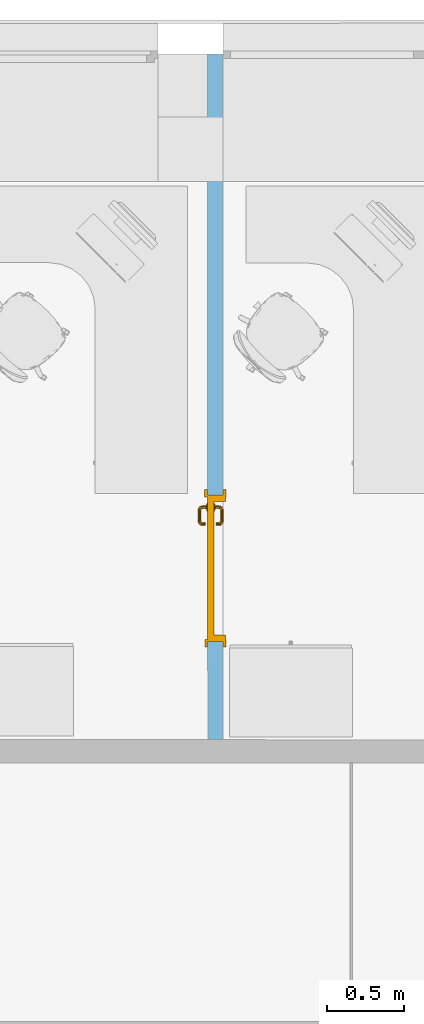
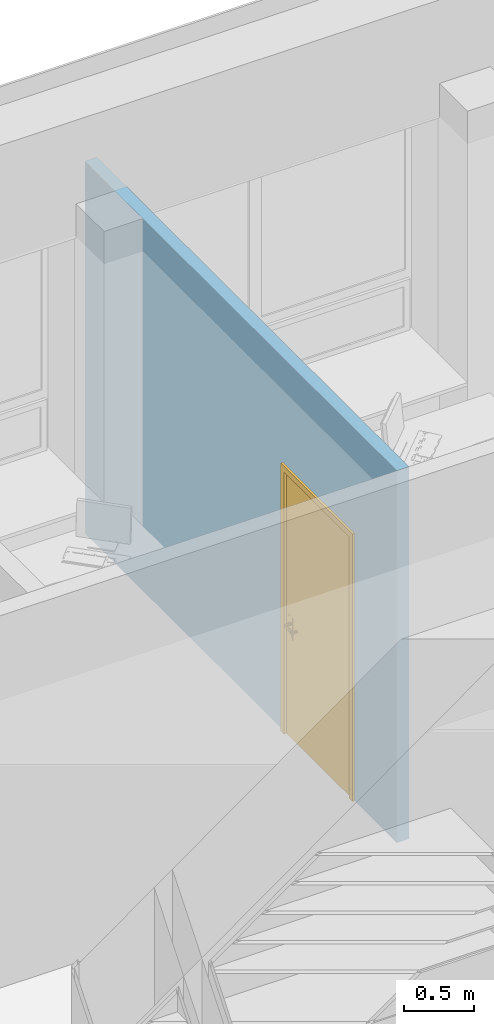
# One storey, part 71 of 194: 1 door, 1 opening, plus 1 element that does not belong to this part.
"""IFC2X3 building model written with IfcOpenShell, lengths in millimetres."""

from ifc_helpers import new_model, entity, si_unit, converted_unit, derived_unit, money_unit, direction, frame, origin_with_axes, origin_2d_with_axis, place, context, subcontext, project, spatial, polyline, rectangle, outline, extrude, open_shell, faceted_brep, surface_model, material, layer, layer_set, layer_usage, type_object, element, fill, save


model = new_model("IFC2X3")

# Units and contexts
model_context = context("Model", 3, precision=1e-05, world=origin_with_axes(), true_north=direction((0.0, 1.0)))
body_context = subcontext(model_context, "Body", "Model", "MODEL_VIEW")
ifc_project = project(units=[si_unit("LENGTHUNIT", "METRE", prefix="MILLI"), si_unit("AREAUNIT", "SQUARE_METRE"), si_unit("VOLUMEUNIT", "CUBIC_METRE"), converted_unit("PLANEANGLEUNIT", "DEGREE", entity("IfcPlaneAngleMeasure", 0.0174532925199), si_unit("PLANEANGLEUNIT", "RADIAN"), dimensions=[0, 0, 0, 0, 0, 0, 0]), si_unit("SOLIDANGLEUNIT", "STERADIAN"), money_unit("EUR"), converted_unit("TIMEUNIT", "Year", entity("IfcTimeMeasure", 31556926.0), si_unit("TIMEUNIT", "SECOND"), dimensions=[0, 0, 1, 0, 0, 0, 0]), si_unit("MASSUNIT", "GRAM", prefix="KILO"), si_unit("THERMODYNAMICTEMPERATUREUNIT", "DEGREE_CELSIUS"), si_unit("LUMINOUSINTENSITYUNIT", "LUMEN"), si_unit("ENERGYUNIT", "JOULE", prefix="MEGA"), derived_unit("THERMALCONDUCTANCEUNIT", [(si_unit("POWERUNIT", "WATT"), 1), (si_unit("LENGTHUNIT", "METRE"), -1), (si_unit("THERMODYNAMICTEMPERATUREUNIT", "KELVIN"), -1)]), derived_unit("SPECIFICHEATCAPACITYUNIT", [(si_unit("ENERGYUNIT", "JOULE"), 1), (si_unit("MASSUNIT", "GRAM", prefix="KILO"), -1), (si_unit("THERMODYNAMICTEMPERATUREUNIT", "KELVIN"), -1)]), derived_unit("MASSDENSITYUNIT", [(si_unit("MASSUNIT", "GRAM", prefix="KILO"), 1), (si_unit("VOLUMEUNIT", "CUBIC_METRE"), -1)])], contexts=[model_context])

# Site, building, storey
site_placement = place(None, origin_with_axes())
site = spatial("IfcSite", under=ifc_project, at=site_placement, Name="Site", CompositionType="ELEMENT")
building_placement = place(site_placement, origin_with_axes())
building = spatial("IfcBuilding", under=site, at=building_placement, Name="Building", CompositionType="ELEMENT")
storey_placement = place(building_placement, frame((0.0, 0.0, 3000.0), z_axis=(0.0, 0.0, 1.0), x_axis=(1.0, 0.0, 0.0)))
storey = spatial("IfcBuildingStorey", under=building, at=storey_placement, Name="2 KORRUS", CompositionType="ELEMENT", Elevation=3000.0)

# Wall, opening, door
ifc_material = material(Name="Kivi -Ol.Olev Konstruktsioon")
ifc_layer = layer(ifc_material, 100.0, ventilated="UNKNOWN")
ifc_layer_set = layer_set([ifc_layer], Name="ol.olev ss 100")
ifc_layer_usage = layer_usage(ifc_layer_set, "AXIS2", "NEGATIVE", 0.0)
wall_type = type_object("IfcWallType", Name="SW - 022", PredefinedType="NOTDEFINED")
wall_placement = place(storey_placement, frame((37159.4728509, 71921.3329731, 0.0), z_axis=(0.0, 0.0, 1.0), x_axis=(0.00061439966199, -0.999999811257, 0.0)))
wall = element("IfcWallStandardCase", 1, at=wall_placement, inside=storey, type_object=wall_type, material=ifc_layer_usage, Name="ol.olev ss 100", context=body_context, shape_type="SweptSolid", body=[
    extrude(outline(polyline([(0.0, -100.0), (4458.05789024, -100.0), (4458.13007929, 0.0), (0.0, 0.0), (0.0, -100.0)])), origin_with_axes(), (0.0, 0.0, 1.0), 3250.0),
])
opening_placement = place(wall_placement, frame((3343.23962917, 0.0, 0.0), z_axis=(0.0, 0.0, 1.0), x_axis=(1.0, 0.0, 0.0)))
opening = element("IfcOpeningElement", 2, at=opening_placement, cuts=wall, Name="Siseuks * Door 22", context=body_context, shape_type="SweptSolid", body=[
    extrude(rectangle(XDim=950.000000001, YDim=2300.0, at=origin_2d_with_axis()), frame((-1.81898940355e-09, 100.0, 1150.0), z_axis=(0.0, 1.0, 0.0), x_axis=(1.0, 0.0, 0.0)), (0.0, 0.0, -1.0), 300.0),
    extrude(rectangle(XDim=1024.0, YDim=2337.0, at=origin_2d_with_axis()), frame((-9.09494701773e-10, 0.0, 1168.5), z_axis=(0.0, 1.0, 0.0), x_axis=(1.0, 0.0, 0.0)), (0.0, 0.0, 1.0), 100.0),
    extrude(rectangle(XDim=1024.0, YDim=2337.0, at=origin_2d_with_axis()), frame((-9.09494701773e-10, -100.0, 1168.5), z_axis=(0.0, -1.0, 0.0), x_axis=(1.0, 0.0, 0.0)), (0.0, 0.0, 1.0), 100.0),
])
door_style = type_object("IfcDoorStyle", Name="SU-A220   950×2\xa0300", ConstructionType="NOTDEFINED", OperationType="SINGLE_SWING_LEFT", ParameterTakesPrecedence=False, Sizeable=False)
door_placement = place(opening_placement, frame((474.999999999, 0.0, 0.0), z_axis=(0.0, 0.0, 1.0), x_axis=(-1.0, 0.0, 0.0)))
door = element("IfcDoor", 3, at=door_placement, inside=storey, type_object=door_style, Name="Siseuks * Door 22", OverallHeight=2300.0, OverallWidth=950.0, context=body_context, shape_type="SurfaceModel", body=[
    faceted_brep([(987.0, -19.0000000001, 0.0), (937.0, -19.0000000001, 0.0), (937.000000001, 0.0, 0.0), (986.999999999, 0.0, 0.0), (987.0, -19.0000000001, 2337.0), (937.0, -19.0000000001, 2287.0), (937.000000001, 0.0, 2287.0), (986.999999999, 0.0, 2337.0)], [[[0, 1, 2, 3]], [[0, 4, 5, 1]], [[1, 5, 6, 2]], [[3, 2, 6, 7]], [[4, 0, 3, 7]], [[5, 4, 7, 6]]]),
    faceted_brep([(-36.9999999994, -19.0, 2337.0), (12.9999999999, -19.0, 2287.0), (13.0000000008, 0.0, 2287.0), (-36.9999999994, 0.0, 2337.0), (-36.9999999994, -19.0, 0.0), (12.9999999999, -19.0, 0.0), (13.0000000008, 0.0, 0.0), (-36.9999999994, 0.0, 0.0)], [[[0, 1, 2, 3]], [[0, 4, 5, 1]], [[1, 5, 6, 2]], [[3, 2, 6, 7]], [[4, 0, 3, 7]], [[5, 4, 7, 6]]]),
    faceted_brep([(987.0, -19.0000000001, 2337.0), (937.0, -19.0000000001, 2287.0), (937.000000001, 0.0, 2287.0), (986.999999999, 0.0, 2337.0), (-36.9999999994, -19.0, 2337.0), (12.9999999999, -19.0, 2287.0), (13.0000000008, 0.0, 2287.0), (-36.9999999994, 0.0, 2337.0)], [[[0, 1, 2, 3]], [[0, 4, 5, 1]], [[1, 5, 6, 2]], [[3, 2, 6, 7]], [[4, 0, 3, 7]], [[5, 4, 7, 6]]]),
    faceted_brep([(987.0, 119.0, 0.0), (987.0, 100.0, 0.0), (937.0, 100.0, 0.0), (937.000000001, 119.0, 0.0), (987.0, 119.0, 2337.0), (987.0, 100.0, 2337.0), (937.0, 100.0, 2287.0), (937.000000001, 119.0, 2287.0)], [[[0, 1, 2, 3]], [[4, 5, 1, 0]], [[1, 5, 6, 2]], [[3, 2, 6, 7]], [[0, 3, 7, 4]], [[7, 6, 5, 4]]]),
    faceted_brep([(-36.9999999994, 119.0, 2337.0), (-37.0000000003, 99.9999999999, 2337.0), (12.9999999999, 99.9999999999, 2287.0), (12.999999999, 119.0, 2287.0), (-36.9999999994, 119.0, 0.0), (-37.0000000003, 99.9999999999, 0.0), (12.9999999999, 99.9999999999, 0.0), (12.999999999, 119.0, 0.0)], [[[0, 1, 2, 3]], [[4, 5, 1, 0]], [[1, 5, 6, 2]], [[3, 2, 6, 7]], [[0, 3, 7, 4]], [[7, 6, 5, 4]]]),
    faceted_brep([(987.0, 119.0, 2337.0), (987.0, 100.0, 2337.0), (937.0, 100.0, 2287.0), (937.000000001, 119.0, 2287.0), (-36.9999999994, 119.0, 2337.0), (-37.0000000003, 99.9999999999, 2337.0), (12.9999999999, 99.9999999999, 2287.0), (12.999999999, 119.0, 2287.0)], [[[0, 1, 2, 3]], [[4, 5, 1, 0]], [[1, 5, 6, 2]], [[3, 2, 6, 7]], [[0, 3, 7, 4]], [[7, 6, 5, 4]]]),
    faceted_brep([(910.0, 59.9999999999, 0.0), (910.000000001, -15.0, 0.0), (910.000000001, -15.0, 2260.0), (910.0, 59.9999999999, 2260.0), (922.0, 59.9999999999, 0.0), (922.0, 99.9999999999, 0.0), (950.000000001, 99.9999999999, 0.0), (950.000000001, -15.0, 0.0), (950.000000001, -15.0, 2260.0), (922.0, 59.9999999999, 2260.0), (950.000000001, 99.9999999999, 2260.0), (922.0, 99.9999999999, 2260.0)], [[[0, 1, 2, 3]], [[4, 5, 6, 7, 1, 0]], [[1, 7, 8, 2]], [[9, 3, 2, 8, 10, 11]], [[9, 4, 0, 3]], [[11, 5, 4, 9]], [[11, 10, 6, 5]], [[6, 10, 8, 7]]]),
    faceted_brep([(28.0000000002, 59.9999999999, 2260.0), (28.0000000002, 100.0, 2260.0), (0.0, 99.9999999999, 2260.0), (0.0, -15.0000000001, 2260.0), (40.0, -15.0, 2260.0), (40.0000000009, 60.0000000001, 2260.0), (28.0000000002, 59.9999999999, 0.0), (28.0000000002, 100.0, 0.0), (0.0, 99.9999999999, 0.0), (0.0, -15.0000000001, 0.0), (40.0, -15.0, 0.0), (40.0000000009, 60.0000000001, 0.0)], [[[0, 1, 2, 3, 4, 5]], [[0, 6, 7, 1]], [[7, 8, 2, 1]], [[2, 8, 9, 3]], [[3, 9, 10, 4]], [[5, 4, 10, 11]], [[5, 11, 6, 0]], [[6, 11, 10, 9, 8, 7]]]),
    faceted_brep([(922.0, 99.9999999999, 2272.0), (28.0000000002, 100.0, 2272.0), (28.0000000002, 100.0, 2260.0), (0.0, 99.9999999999, 2260.0), (0.0, 99.9999999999, 2300.0), (950.000000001, 99.9999999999, 2300.0), (950.000000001, 99.9999999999, 2260.0), (922.0, 99.9999999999, 2260.0), (922.0, 59.9999999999, 2272.0), (28.0000000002, 59.9999999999, 2272.0), (28.0000000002, 59.9999999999, 2260.0), (40.0000000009, 60.0000000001, 2260.0), (40.0, -15.0, 2260.0), (0.0, -15.0000000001, 2260.0), (0.0, -15.0000000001, 2300.0), (950.000000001, -15.0, 2300.0), (950.000000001, -15.0, 2260.0), (922.0, 59.9999999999, 2260.0), (910.000000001, -15.0, 2260.0), (910.0, 59.9999999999, 2260.0)], [[[0, 1, 2, 3, 4, 5, 6, 7]], [[0, 8, 9, 1]], [[1, 9, 10, 2]], [[10, 11, 12, 13, 3, 2]], [[4, 3, 13, 14]], [[5, 4, 14, 15]], [[6, 5, 15, 16]], [[17, 7, 6, 16, 18, 19]], [[7, 17, 8, 0]], [[10, 9, 8, 17, 19, 11]], [[19, 18, 12, 11]], [[12, 18, 16, 15, 14, 13]]]),
    faceted_brep([(900.5, 60.0000000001, 1060.0), (843.5, 60.0000000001, 1060.0), (843.500000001, 56.9999999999, 1060.0), (900.500000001, 57.0, 1060.0), (900.5, 60.0000000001, 870.0), (843.5, 60.0000000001, 870.0), (843.500000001, 56.9999999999, 870.0), (900.500000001, 57.0, 870.0)], [[[0, 1, 2, 3]], [[0, 4, 5, 1]], [[1, 5, 6, 2]], [[3, 2, 6, 7]], [[4, 0, 3, 7]], [[5, 4, 7, 6]]]),
    surface_model("IfcShellBasedSurfaceModel", [(862.0, 46.9999999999, 1000.0), (864.928932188, 47.0, 992.928932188), (864.928932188, 27.696439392, 992.928932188), (862.0, 27.9849140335, 1000.0), (872.000000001, 47.0, 990.0), (872.0, 27.0, 990.0), (863.816790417, 22.1053251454, 992.928932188), (861.057796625, 23.2481377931, 1000.0), (864.928932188, 47.0, 1007.07106781), (864.928932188, 27.696439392, 1007.07106781), (879.071067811, 47.0, 992.928932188), (879.071067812, 26.303560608, 992.928932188), (870.477590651, 19.3463313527, 990.0), (861.044179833, 17.9558201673, 992.928932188), (858.932537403, 20.0674625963, 1000.0), (863.816790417, 22.1053251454, 1007.07106781), (872.000000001, 47.0, 1010.0), (872.0, 27.0, 1010.0), (882.000000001, 47.0, 1000.0), (882.000000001, 26.0150859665, 1000.0), (877.138390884, 16.5873375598, 992.928932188), (866.142135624, 12.8578643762, 990.0), (856.894674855, 15.183209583, 992.928932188), (855.751862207, 17.9422033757, 1000.0), (861.044179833, 17.9558201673, 1007.07106781), (870.477590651, 19.3463313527, 1010.0), (879.071067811, 47.0, 1007.07106781), (879.071067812, 26.303560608, 1007.07106781), (879.897384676, 15.4445249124, 1000.0), (871.240091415, 7.75990858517, 992.928932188), (859.653668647, 8.52240934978, 990.0), (851.303560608, 14.0710678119, 992.928932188), (851.015085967, 16.9999999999, 1000.0), (856.894674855, 15.183209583, 1007.07106781), (866.142135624, 12.8578643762, 1010.0), (877.138390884, 16.5873375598, 1007.07106781), (873.351733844, 5.64826615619, 1000.0), (862.412662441, 1.86160911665, 992.928932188), (852.000000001, 6.99999999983, 990.0), (782.696439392, 14.0710678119, 992.928932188), (782.984914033, 17.0000000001, 1000.0), (851.303560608, 14.0710678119, 1007.07106781), (859.653668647, 8.52240934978, 1010.0), (871.240091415, 7.75990858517, 1007.07106781), (863.555475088, -0.89738467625, 1000.0), (852.696439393, -0.0710678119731, 992.928932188), (782.0, 7.00000000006, 990.0), (777.105325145, 15.1832095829, 992.928932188), (778.248137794, 17.9422033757, 1000.0), (782.696439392, 14.0710678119, 1007.07106781), (852.000000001, 6.99999999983, 1010.0), (862.412662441, 1.86160911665, 1007.07106781), (852.984914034, -3.00000000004, 1000.0), (781.303560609, -0.0710678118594, 992.928932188), (774.346331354, 8.52240934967, 990.0), (772.955820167, 17.9558201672, 992.928932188), (775.067462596, 20.0674625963, 1000.0), (777.105325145, 15.1832095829, 1007.07106781), (782.0, 7.00000000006, 1010.0), (852.696439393, -0.0710678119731, 1007.07106781), (781.015085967, -3.00000000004, 1000.0), (771.58733756, 1.86160911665, 992.928932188), (767.857864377, 12.8578643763, 990.0), (770.183209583, 22.1053251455, 992.928932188), (772.942203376, 23.248137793, 1000.0), (772.955820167, 17.9558201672, 1007.07106781), (774.346331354, 8.52240934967, 1010.0), (781.303560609, -0.0710678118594, 1007.07106781), (770.444524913, -0.89738467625, 1000.0), (762.759908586, 7.75990858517, 992.928932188), (763.52240935, 19.3463313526, 990.0), (769.071067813, 27.6964393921, 992.928932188), (772.000000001, 27.9849140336, 1000.0), (770.183209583, 22.1053251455, 1007.07106781), (767.857864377, 12.8578643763, 1010.0), (771.58733756, 1.86160911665, 1007.07106781), (760.648266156, 5.64826615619, 1000.0), (756.861609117, 16.5873375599, 992.928932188), (762.000000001, 26.9999999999, 990.0), (769.071067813, 46.9999999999, 992.928932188), (772.0, 47.0, 1000.0), (769.071067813, 27.6964393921, 1007.07106781), (763.52240935, 19.3463313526, 1010.0), (762.759908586, 7.75990858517, 1007.07106781), (754.102615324, 15.4445249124, 1000.0), (754.928932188, 26.303560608, 992.928932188), (762.000000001, 46.9999999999, 990.0), (754.928932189, 46.9999999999, 992.928932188), (752.0, 46.9999999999, 1000.0), (754.928932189, 46.9999999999, 1007.07106781), (762.000000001, 46.9999999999, 1010.0), (769.071067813, 46.9999999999, 1007.07106781), (762.000000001, 26.9999999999, 1010.0), (756.861609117, 16.5873375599, 1007.07106781), (752.0, 26.0150859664, 1000.0), (754.928932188, 26.303560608, 1007.07106781)], [open_shell([[[0, 1, 2, 3]], [[1, 4, 5, 2]], [[3, 2, 6, 7]], [[8, 0, 3, 9]], [[4, 10, 11, 5]], [[2, 5, 12, 6]], [[7, 6, 13, 14]], [[9, 3, 7, 15]], [[16, 8, 9, 17]], [[10, 18, 19, 11]], [[5, 11, 20, 12]], [[6, 12, 21, 13]], [[14, 13, 22, 23]], [[15, 7, 14, 24]], [[17, 9, 15, 25]], [[26, 16, 17, 27]], [[18, 26, 27, 19]], [[11, 19, 28, 20]], [[12, 20, 29, 21]], [[13, 21, 30, 22]], [[23, 22, 31, 32]], [[24, 14, 23, 33]], [[25, 15, 24, 34]], [[27, 17, 25, 35]], [[19, 27, 35, 28]], [[20, 28, 36, 29]], [[21, 29, 37, 30]], [[22, 30, 38, 31]], [[32, 31, 39, 40]], [[33, 23, 32, 41]], [[34, 24, 33, 42]], [[35, 25, 34, 43]], [[28, 35, 43, 36]], [[29, 36, 44, 37]], [[30, 37, 45, 38]], [[31, 38, 46, 39]], [[40, 39, 47, 48]], [[41, 32, 40, 49]], [[42, 33, 41, 50]], [[43, 34, 42, 51]], [[36, 43, 51, 44]], [[37, 44, 52, 45]], [[38, 45, 53, 46]], [[39, 46, 54, 47]], [[48, 47, 55, 56]], [[49, 40, 48, 57]], [[50, 41, 49, 58]], [[51, 42, 50, 59]], [[44, 51, 59, 52]], [[45, 52, 60, 53]], [[46, 53, 61, 54]], [[47, 54, 62, 55]], [[56, 55, 63, 64]], [[57, 48, 56, 65]], [[58, 49, 57, 66]], [[59, 50, 58, 67]], [[52, 59, 67, 60]], [[53, 60, 68, 61]], [[54, 61, 69, 62]], [[55, 62, 70, 63]], [[64, 63, 71, 72]], [[65, 56, 64, 73]], [[66, 57, 65, 74]], [[67, 58, 66, 75]], [[60, 67, 75, 68]], [[61, 68, 76, 69]], [[62, 69, 77, 70]], [[63, 70, 78, 71]], [[72, 71, 79, 80]], [[73, 64, 72, 81]], [[74, 65, 73, 82]], [[75, 66, 74, 83]], [[68, 75, 83, 76]], [[69, 76, 84, 77]], [[70, 77, 85, 78]], [[71, 78, 86, 79]], [[80, 79, 86, 87, 88, 89, 90, 91]], [[81, 72, 80, 91]], [[82, 73, 81, 92]], [[83, 74, 82, 93]], [[76, 83, 93, 84]], [[77, 84, 94, 85]], [[78, 85, 87, 86]], [[85, 94, 88, 87]], [[94, 95, 89, 88]], [[95, 92, 90, 89]], [[92, 81, 91, 90]], [[93, 82, 92, 95]], [[84, 93, 95, 94]]])]),
    faceted_brep([(861.607695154, 46.9999999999, 994.0), (860.000000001, 46.9999999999, 1000.0), (859.0, 56.9999999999, 1000.0), (860.74166975, 56.9999999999, 993.5), (866.0, 47.0, 989.607695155), (872.000000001, 47.0, 988.0), (878.000000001, 46.9999999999, 989.607695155), (882.392304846, 46.9999999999, 994.0), (884.0, 47.0, 1000.0), (882.392304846, 46.9999999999, 1006.0), (878.000000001, 46.9999999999, 1010.39230485), (872.000000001, 47.0, 1012.0), (866.0, 47.0, 1010.39230485), (861.607695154, 46.9999999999, 1006.0), (860.74166975, 56.9999999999, 1006.5), (865.5, 56.9999999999, 1011.25833025), (872.0, 57.0, 1013.0), (878.500000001, 57.0, 1011.25833025), (883.25833025, 56.9999999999, 1006.5), (885.0, 57.0000000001, 1000.0), (883.25833025, 56.9999999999, 993.5), (878.500000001, 57.0, 988.741669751), (872.0, 57.0, 987.0), (865.5, 56.9999999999, 988.741669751)], [[[0, 1, 2, 3]], [[1, 0, 4, 5, 6, 7, 8, 9, 10, 11, 12, 13]], [[1, 13, 14, 2]], [[2, 14, 15, 16, 17, 18, 19, 20, 21, 22, 23, 3]], [[4, 0, 3, 23]], [[5, 4, 23, 22]], [[6, 5, 22, 21]], [[7, 6, 21, 20]], [[8, 7, 20, 19]], [[9, 8, 19, 18]], [[10, 9, 18, 17]], [[11, 10, 17, 16]], [[12, 11, 16, 15]], [[13, 12, 15, 14]]]),
    faceted_brep([(854.679491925, 52.9999999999, 895.0), (852.0, 52.9999999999, 905.0), (850.0, 56.9999999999, 905.0), (852.947441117, 56.9999999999, 894.0), (862.000000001, 53.0, 887.679491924), (872.0, 53.0, 885.0), (882.000000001, 53.0, 887.679491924), (889.320508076, 53.0, 895.0), (892.0, 53.0, 905.0), (889.320508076, 53.0, 915.0), (882.000000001, 53.0, 922.320508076), (872.0, 53.0, 925.0), (862.000000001, 53.0, 922.320508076), (854.679491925, 52.9999999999, 915.0), (852.947441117, 56.9999999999, 916.0), (861.0, 57.0, 924.052558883), (872.0, 57.0, 927.0), (883.000000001, 57.0, 924.052558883), (891.052558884, 56.9999999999, 916.0), (894.000000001, 56.9999999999, 905.0), (891.052558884, 56.9999999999, 894.0), (883.000000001, 57.0, 885.947441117), (872.0, 57.0, 883.0), (861.0, 57.0, 885.947441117)], [[[0, 1, 2, 3]], [[1, 0, 4, 5, 6, 7, 8, 9, 10, 11, 12, 13]], [[1, 13, 14, 2]], [[2, 14, 15, 16, 17, 18, 19, 20, 21, 22, 23, 3]], [[4, 0, 3, 23]], [[5, 4, 23, 22]], [[6, 5, 22, 21]], [[7, 6, 21, 20]], [[8, 7, 20, 19]], [[9, 8, 19, 18]], [[10, 9, 18, 17]], [[11, 10, 17, 16]], [[12, 11, 16, 15]], [[13, 12, 15, 14]]]),
    faceted_brep([(867.050252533, 51.0, 909.050252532), (865.000000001, 50.9999999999, 914.0), (864.0, 53.0, 914.0), (866.343145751, 53.0, 908.343145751), (871.999999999, 50.9999999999, 907.0), (876.949747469, 50.9999999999, 909.050252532), (879.000000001, 50.9999999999, 914.0), (876.949747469, 50.9999999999, 918.949747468), (871.999999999, 50.9999999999, 921.0), (867.050252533, 51.0, 918.949747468), (866.343145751, 53.0, 919.656854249), (872.0, 53.0, 922.0), (877.65685425, 53.0, 919.656854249), (880.0, 53.0, 914.0), (877.65685425, 53.0, 908.343145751), (872.0, 53.0, 906.0)], [[[0, 1, 2, 3]], [[1, 0, 4, 5, 6, 7, 8, 9]], [[1, 9, 10, 2]], [[2, 10, 11, 12, 13, 14, 15, 3]], [[4, 0, 3, 15]], [[5, 4, 15, 14]], [[6, 5, 14, 13]], [[7, 6, 13, 12]], [[8, 7, 12, 11]], [[9, 8, 11, 10]]]),
    faceted_brep([(900.500000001, 100.0, 1060.0), (900.5, 103.0, 1060.0), (843.5, 103.0, 1060.0), (843.5, 100.0, 1060.0), (900.500000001, 100.0, 870.0), (900.5, 103.0, 870.0), (843.5, 103.0, 870.0), (843.5, 100.0, 870.0)], [[[0, 1, 2, 3]], [[4, 5, 1, 0]], [[1, 5, 6, 2]], [[3, 2, 6, 7]], [[0, 3, 7, 4]], [[7, 6, 5, 4]]]),
    surface_model("IfcShellBasedSurfaceModel", [(861.999999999, 113.0, 1000.0), (862.0, 132.015085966, 1000.0), (864.928932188, 132.303560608, 992.928932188), (864.928932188, 113.0, 992.928932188), (864.928932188, 113.0, 1007.07106781), (864.928932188, 132.303560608, 1007.07106781), (861.057796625, 136.751862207, 1000.0), (863.816790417, 137.894674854, 992.928932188), (872.0, 133.0, 990.0), (872.0, 113.0, 990.0), (872.0, 113.0, 1010.0), (872.0, 133.0, 1010.0), (863.816790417, 137.894674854, 1007.07106781), (858.932537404, 139.932537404, 1000.0), (861.044179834, 142.044179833, 992.928932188), (870.477590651, 140.653668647, 990.0), (879.071067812, 133.696439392, 992.928932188), (879.071067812, 113.0, 992.928932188), (879.071067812, 113.0, 1007.07106781), (879.071067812, 133.696439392, 1007.07106781), (870.477590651, 140.653668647, 1010.0), (861.044179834, 142.044179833, 1007.07106781), (855.751862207, 142.057796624, 1000.0), (856.894674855, 144.816790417, 992.928932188), (866.142135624, 147.142135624, 990.0), (877.138390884, 143.41266244, 992.928932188), (882.000000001, 133.984914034, 1000.0), (882.0, 113.0, 1000.0), (877.138390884, 143.41266244, 1007.07106781), (866.142135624, 147.142135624, 1010.0), (856.894674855, 144.816790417, 1007.07106781), (851.015085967, 143.0, 1000.0), (851.303560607, 145.928932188, 992.928932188), (859.653668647, 151.47759065, 990.0), (871.240091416, 152.240091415, 992.928932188), (879.897384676, 144.555475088, 1000.0), (871.240091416, 152.240091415, 1007.07106781), (859.653668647, 151.47759065, 1010.0), (851.303560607, 145.928932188, 1007.07106781), (782.984914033, 143.0, 1000.0), (782.696439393, 145.928932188, 992.928932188), (852.000000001, 153.0, 990.0), (862.412662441, 158.138390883, 992.928932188), (873.351733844, 154.351733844, 1000.0), (862.412662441, 158.138390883, 1007.07106781), (852.000000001, 153.0, 1010.0), (782.696439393, 145.928932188, 1007.07106781), (778.248137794, 142.057796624, 1000.0), (777.105325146, 144.816790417, 992.928932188), (782.000000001, 153.0, 990.0), (852.696439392, 160.071067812, 992.928932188), (863.555475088, 160.897384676, 1000.0), (852.696439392, 160.071067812, 1007.07106781), (782.000000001, 153.0, 1010.0), (777.105325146, 144.816790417, 1007.07106781), (775.067462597, 139.932537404, 1000.0), (772.955820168, 142.044179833, 992.928932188), (774.346331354, 151.47759065, 990.0), (781.303560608, 160.071067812, 992.928932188), (852.984914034, 163.0, 1000.0), (781.303560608, 160.071067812, 1007.07106781), (774.346331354, 151.47759065, 1010.0), (772.955820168, 142.044179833, 1007.07106781), (772.942203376, 136.751862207, 1000.0), (770.183209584, 137.894674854, 992.928932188), (767.857864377, 147.142135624, 990.0), (771.58733756, 158.138390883, 992.928932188), (781.015085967, 163.0, 1000.0), (771.58733756, 158.138390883, 1007.07106781), (767.857864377, 147.142135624, 1010.0), (770.183209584, 137.894674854, 1007.07106781), (772.0, 132.015085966, 1000.0), (769.071067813, 132.303560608, 992.928932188), (763.52240935, 140.653668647, 990.0), (762.759908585, 152.240091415, 992.928932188), (770.444524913, 160.897384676, 1000.0), (762.759908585, 152.240091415, 1007.07106781), (763.52240935, 140.653668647, 1010.0), (769.071067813, 132.303560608, 1007.07106781), (772.000000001, 113.0, 1000.0), (769.071067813, 113.0, 992.928932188), (762.000000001, 133.0, 990.0), (756.861609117, 143.41266244, 992.928932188), (760.648266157, 154.351733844, 1000.0), (756.861609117, 143.41266244, 1007.07106781), (762.000000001, 133.0, 1010.0), (769.071067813, 113.0, 1007.07106781), (762.0, 113.0, 1010.0), (754.928932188, 113.0, 1007.07106781), (752.0, 113.0, 1000.0), (754.928932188, 113.0, 992.928932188), (762.0, 113.0, 990.0), (754.928932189, 133.696439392, 992.928932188), (754.102615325, 144.555475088, 1000.0), (754.928932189, 133.696439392, 1007.07106781), (752.0, 133.984914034, 1000.0)], [open_shell([[[0, 1, 2, 3]], [[4, 5, 1, 0]], [[1, 6, 7, 2]], [[3, 2, 8, 9]], [[10, 11, 5, 4]], [[5, 12, 6, 1]], [[6, 13, 14, 7]], [[2, 7, 15, 8]], [[9, 8, 16, 17]], [[18, 19, 11, 10]], [[11, 20, 12, 5]], [[12, 21, 13, 6]], [[13, 22, 23, 14]], [[7, 14, 24, 15]], [[8, 15, 25, 16]], [[17, 16, 26, 27]], [[27, 26, 19, 18]], [[19, 28, 20, 11]], [[20, 29, 21, 12]], [[21, 30, 22, 13]], [[22, 31, 32, 23]], [[14, 23, 33, 24]], [[15, 24, 34, 25]], [[16, 25, 35, 26]], [[26, 35, 28, 19]], [[28, 36, 29, 20]], [[29, 37, 30, 21]], [[30, 38, 31, 22]], [[31, 39, 40, 32]], [[23, 32, 41, 33]], [[24, 33, 42, 34]], [[25, 34, 43, 35]], [[35, 43, 36, 28]], [[36, 44, 37, 29]], [[37, 45, 38, 30]], [[38, 46, 39, 31]], [[39, 47, 48, 40]], [[32, 40, 49, 41]], [[33, 41, 50, 42]], [[34, 42, 51, 43]], [[43, 51, 44, 36]], [[44, 52, 45, 37]], [[45, 53, 46, 38]], [[46, 54, 47, 39]], [[47, 55, 56, 48]], [[40, 48, 57, 49]], [[41, 49, 58, 50]], [[42, 50, 59, 51]], [[51, 59, 52, 44]], [[52, 60, 53, 45]], [[53, 61, 54, 46]], [[54, 62, 55, 47]], [[55, 63, 64, 56]], [[48, 56, 65, 57]], [[49, 57, 66, 58]], [[50, 58, 67, 59]], [[59, 67, 60, 52]], [[60, 68, 61, 53]], [[61, 69, 62, 54]], [[62, 70, 63, 55]], [[63, 71, 72, 64]], [[56, 64, 73, 65]], [[57, 65, 74, 66]], [[58, 66, 75, 67]], [[67, 75, 68, 60]], [[68, 76, 69, 61]], [[69, 77, 70, 62]], [[70, 78, 71, 63]], [[71, 79, 80, 72]], [[64, 72, 81, 73]], [[65, 73, 82, 74]], [[66, 74, 83, 75]], [[75, 83, 76, 68]], [[76, 84, 77, 69]], [[77, 85, 78, 70]], [[78, 86, 79, 71]], [[79, 86, 87, 88, 89, 90, 91, 80]], [[72, 80, 91, 81]], [[73, 81, 92, 82]], [[74, 82, 93, 83]], [[83, 93, 84, 76]], [[84, 94, 85, 77]], [[85, 87, 86, 78]], [[94, 88, 87, 85]], [[95, 89, 88, 94]], [[92, 90, 89, 95]], [[81, 91, 90, 92]], [[82, 92, 95, 93]], [[93, 95, 94, 84]]])]),
    faceted_brep([(861.607695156, 113.0, 994.0), (860.741669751, 103.0, 993.5), (859.0, 103.0, 1000.0), (860.000000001, 113.0, 1000.0), (866.0, 113.0, 989.607695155), (865.500000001, 103.0, 988.741669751), (872.0, 103.0, 987.0), (878.5, 103.0, 988.741669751), (883.25833025, 103.0, 993.5), (885.0, 103.0, 1000.0), (883.25833025, 103.0, 1006.5), (878.5, 103.0, 1011.25833025), (872.0, 103.0, 1013.0), (865.500000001, 103.0, 1011.25833025), (860.741669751, 103.0, 1006.5), (861.607695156, 113.0, 1006.0), (866.0, 113.0, 1010.39230485), (872.0, 113.0, 1012.0), (878.0, 113.0, 1010.39230485), (882.392304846, 113.0, 1006.0), (884.0, 113.0, 1000.0), (882.392304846, 113.0, 994.0), (878.0, 113.0, 989.607695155), (872.0, 113.0, 988.0)], [[[0, 1, 2, 3]], [[4, 5, 1, 0]], [[2, 1, 5, 6, 7, 8, 9, 10, 11, 12, 13, 14]], [[3, 2, 14, 15]], [[3, 15, 16, 17, 18, 19, 20, 21, 22, 23, 4, 0]], [[23, 6, 5, 4]], [[22, 7, 6, 23]], [[21, 8, 7, 22]], [[20, 9, 8, 21]], [[19, 10, 9, 20]], [[18, 11, 10, 19]], [[17, 12, 11, 18]], [[16, 13, 12, 17]], [[15, 14, 13, 16]]]),
    faceted_brep([(854.679491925, 107.0, 895.0), (852.947441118, 103.0, 894.0), (849.999999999, 103.0, 905.0), (852.0, 107.0, 905.0), (862.000000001, 107.0, 887.679491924), (861.000000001, 103.0, 885.947441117), (872.0, 103.0, 883.0), (883.0, 103.0, 885.947441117), (891.052558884, 103.0, 894.0), (894.0, 103.0, 905.0), (891.052558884, 103.0, 916.0), (883.0, 103.0, 924.052558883), (872.0, 103.0, 927.0), (861.000000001, 103.0, 924.052558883), (852.947441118, 103.0, 916.0), (854.679491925, 107.0, 915.0), (862.000000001, 107.0, 922.320508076), (871.999999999, 107.0, 925.0), (882.000000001, 107.0, 922.320508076), (889.320508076, 107.0, 915.0), (892.0, 107.0, 905.0), (889.320508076, 107.0, 895.0), (882.000000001, 107.0, 887.679491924), (871.999999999, 107.0, 885.0)], [[[0, 1, 2, 3]], [[4, 5, 1, 0]], [[2, 1, 5, 6, 7, 8, 9, 10, 11, 12, 13, 14]], [[3, 2, 14, 15]], [[3, 15, 16, 17, 18, 19, 20, 21, 22, 23, 4, 0]], [[23, 6, 5, 4]], [[22, 7, 6, 23]], [[21, 8, 7, 22]], [[20, 9, 8, 21]], [[19, 10, 9, 20]], [[18, 11, 10, 19]], [[17, 12, 11, 18]], [[16, 13, 12, 17]], [[15, 14, 13, 16]]]),
    faceted_brep([(867.050252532, 109.0, 909.050252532), (866.34314575, 107.0, 908.343145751), (864.0, 107.0, 914.0), (865.0, 109.0, 914.0), (872.0, 109.0, 907.0), (871.999999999, 107.0, 906.0), (877.65685425, 107.0, 908.343145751), (880.0, 107.0, 914.0), (877.65685425, 107.0, 919.656854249), (871.999999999, 107.0, 922.0), (866.34314575, 107.0, 919.656854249), (867.050252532, 109.0, 918.949747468), (872.0, 109.0, 921.0), (876.949747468, 109.0, 918.949747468), (879.0, 109.0, 914.0), (876.949747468, 109.0, 909.050252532)], [[[0, 1, 2, 3]], [[4, 5, 1, 0]], [[2, 1, 5, 6, 7, 8, 9, 10]], [[3, 2, 10, 11]], [[3, 11, 12, 13, 14, 15, 4, 0]], [[15, 6, 5, 4]], [[14, 7, 6, 15]], [[13, 8, 7, 14]], [[12, 9, 8, 13]], [[11, 10, 9, 12]]]),
    faceted_brep([(28.0000000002, 100.0, 0.0), (922.0, 99.9999999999, 0.0), (922.0, 59.9999999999, 0.0), (28.0000000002, 59.9999999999, 0.0), (28.0000000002, 100.0, 2272.0), (922.0, 99.9999999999, 2272.0), (922.0, 59.9999999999, 2272.0), (28.0000000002, 59.9999999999, 2272.0)], [[[0, 1, 2, 3]], [[0, 4, 5, 1]], [[1, 5, 6, 2]], [[3, 2, 6, 7]], [[4, 0, 3, 7]], [[5, 4, 7, 6]]]),
])
fill(opening, door)

save(model, "model.ifc")
